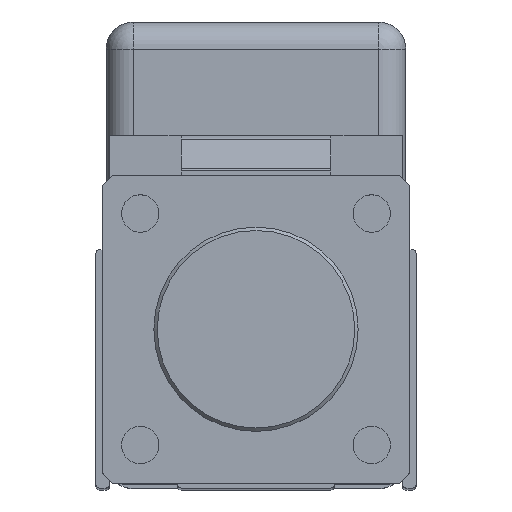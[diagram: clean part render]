
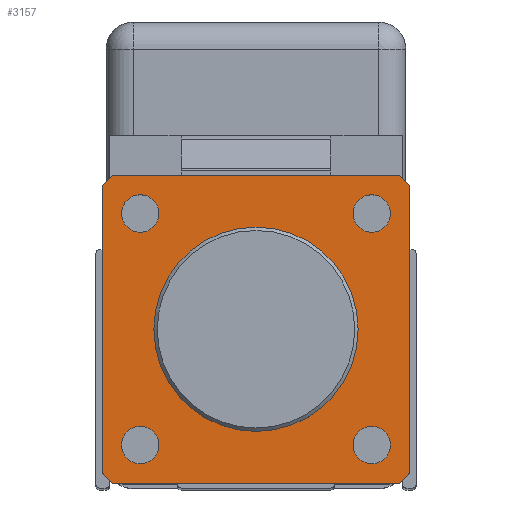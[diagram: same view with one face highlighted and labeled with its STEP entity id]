
A CAD part, top view. The second image highlights one B-rep face of the part: STEP entity #3157.
In plain terms, the highlighted planar face has unit normal (0, 0, 1).
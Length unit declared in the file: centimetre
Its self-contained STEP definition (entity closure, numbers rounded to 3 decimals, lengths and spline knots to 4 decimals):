
#409=VECTOR('',#3836,1.);
#412=VECTOR('',#3840,1.);
#414=VECTOR('',#3843,1.);
#417=VECTOR('',#3847,1.);
#420=VECTOR('',#3851,1.);
#423=VECTOR('',#3855,1.);
#427=VECTOR('',#3860,1.);
#430=VECTOR('',#3864,1.);
#652=LINE('',#4802,#409);
#655=LINE('',#4808,#412);
#657=LINE('',#4812,#414);
#660=LINE('',#4818,#417);
#663=LINE('',#4823,#420);
#666=LINE('',#4830,#423);
#670=LINE('',#4838,#427);
#673=LINE('',#4843,#430);
#855=PLANE('',#3388);
#990=VERTEX_POINT('',#4744);
#1017=VERTEX_POINT('',#4803);
#1018=VERTEX_POINT('',#4804);
#1019=VERTEX_POINT('',#4809);
#1020=VERTEX_POINT('',#4813);
#1022=VERTEX_POINT('',#4819);
#1023=VERTEX_POINT('',#4824);
#1026=VERTEX_POINT('',#4831);
#1029=VERTEX_POINT('',#4839);
#1030=VERTEX_POINT('',#4846);
#1032=VERTEX_POINT('',#4851);
#1033=VERTEX_POINT('',#4854);
#1034=VERTEX_POINT('',#4857);
#1230=CIRCLE('',#3356,1.5);
#1243=CIRCLE('',#3380,0.275);
#1245=CIRCLE('',#3383,0.275);
#1246=CIRCLE('',#3385,0.275);
#1247=CIRCLE('',#3387,0.275);
#1445=EDGE_CURVE('',#990,#990,#1230,.T.);
#1474=EDGE_CURVE('',#1017,#1018,#652,.T.);
#1477=EDGE_CURVE('',#1018,#1019,#655,.T.);
#1479=EDGE_CURVE('',#1019,#1020,#657,.T.);
#1482=EDGE_CURVE('',#1020,#1022,#660,.T.);
#1485=EDGE_CURVE('',#1022,#1023,#663,.T.);
#1489=EDGE_CURVE('',#1023,#1026,#666,.T.);
#1493=EDGE_CURVE('',#1026,#1029,#670,.T.);
#1496=EDGE_CURVE('',#1029,#1017,#673,.T.);
#1497=EDGE_CURVE('',#1030,#1030,#1243,.T.);
#1499=EDGE_CURVE('',#1032,#1032,#1245,.T.);
#1500=EDGE_CURVE('',#1033,#1033,#1246,.T.);
#1501=EDGE_CURVE('',#1034,#1034,#1247,.T.);
#2023=ORIENTED_EDGE('',*,*,#1445,.T.);
#2024=ORIENTED_EDGE('',*,*,#1501,.F.);
#2025=ORIENTED_EDGE('',*,*,#1500,.F.);
#2026=ORIENTED_EDGE('',*,*,#1499,.F.);
#2027=ORIENTED_EDGE('',*,*,#1497,.F.);
#2028=ORIENTED_EDGE('',*,*,#1474,.F.);
#2029=ORIENTED_EDGE('',*,*,#1496,.F.);
#2030=ORIENTED_EDGE('',*,*,#1493,.F.);
#2031=ORIENTED_EDGE('',*,*,#1489,.F.);
#2032=ORIENTED_EDGE('',*,*,#1485,.F.);
#2033=ORIENTED_EDGE('',*,*,#1482,.F.);
#2034=ORIENTED_EDGE('',*,*,#1479,.F.);
#2035=ORIENTED_EDGE('',*,*,#1477,.F.);
#2684=EDGE_LOOP('',(#2023));
#2685=EDGE_LOOP('',(#2024));
#2686=EDGE_LOOP('',(#2025));
#2687=EDGE_LOOP('',(#2026));
#2688=EDGE_LOOP('',(#2027));
#2689=EDGE_LOOP('',(#2028,#2029,#2030,#2031,#2032,#2033,#2034,#2035));
#2939=FACE_BOUND('',#2684,.T.);
#2940=FACE_BOUND('',#2685,.T.);
#2941=FACE_BOUND('',#2686,.T.);
#2942=FACE_BOUND('',#2687,.T.);
#2943=FACE_BOUND('',#2688,.T.);
#2944=FACE_BOUND('',#2689,.T.);
#3157=ADVANCED_FACE('',(#2939,#2940,#2941,#2942,#2943,#2944),#855,.T.);
#3356=AXIS2_PLACEMENT_3D('',#4743,#3791,#3792);
#3380=AXIS2_PLACEMENT_3D('',#4845,#3867,#3868);
#3383=AXIS2_PLACEMENT_3D('',#4850,#3873,#3874);
#3385=AXIS2_PLACEMENT_3D('',#4853,#3877,#3878);
#3387=AXIS2_PLACEMENT_3D('',#4856,#3881,#3882);
#3388=AXIS2_PLACEMENT_3D('',#4858,#3883,$);
#3791=DIRECTION('',(0.,0.,-1.));
#3792=DIRECTION('',(1.5,0.,0.));
#3836=DIRECTION('',(1.,0.,0.));
#3840=DIRECTION('',(0.707,-0.707,0.));
#3843=DIRECTION('',(0.,-1.,0.));
#3847=DIRECTION('',(-0.707,-0.707,0.));
#3851=DIRECTION('',(-1.,0.,0.));
#3855=DIRECTION('',(-0.707,0.707,0.));
#3860=DIRECTION('',(0.,1.,0.));
#3864=DIRECTION('',(0.707,0.707,0.));
#3867=DIRECTION('',(0.,0.,1.));
#3868=DIRECTION('',(0.275,0.,0.));
#3873=DIRECTION('',(0.,0.,1.));
#3874=DIRECTION('',(0.275,0.,0.));
#3877=DIRECTION('',(0.,0.,1.));
#3878=DIRECTION('',(0.275,0.,0.));
#3881=DIRECTION('',(0.,0.,1.));
#3882=DIRECTION('',(0.275,0.,0.));
#3883=DIRECTION('',(0.,0.,1.));
#4743=CARTESIAN_POINT('',(0.,0.,18.));
#4744=CARTESIAN_POINT('',(1.5,0.,18.));
#4802=CARTESIAN_POINT('',(2.11,2.26,18.));
#4803=CARTESIAN_POINT('',(-2.11,2.26,18.));
#4804=CARTESIAN_POINT('',(2.11,2.26,18.));
#4808=CARTESIAN_POINT('',(2.26,2.11,18.));
#4809=CARTESIAN_POINT('',(2.26,2.11,18.));
#4812=CARTESIAN_POINT('',(2.26,-2.11,18.));
#4813=CARTESIAN_POINT('',(2.26,-2.11,18.));
#4818=CARTESIAN_POINT('',(2.11,-2.26,18.));
#4819=CARTESIAN_POINT('',(2.11,-2.26,18.));
#4823=CARTESIAN_POINT('',(-2.11,-2.26,18.));
#4824=CARTESIAN_POINT('',(-2.11,-2.26,18.));
#4830=CARTESIAN_POINT('',(-2.26,-2.11,18.));
#4831=CARTESIAN_POINT('',(-2.26,-2.11,18.));
#4838=CARTESIAN_POINT('',(-2.26,2.11,18.));
#4839=CARTESIAN_POINT('',(-2.26,2.11,18.));
#4843=CARTESIAN_POINT('',(-2.11,2.26,18.));
#4845=CARTESIAN_POINT('',(-1.7,-1.7,18.));
#4846=CARTESIAN_POINT('',(-1.425,-1.7,18.));
#4850=CARTESIAN_POINT('',(-1.7,1.7,18.));
#4851=CARTESIAN_POINT('',(-1.425,1.7,18.));
#4853=CARTESIAN_POINT('',(1.7,1.7,18.));
#4854=CARTESIAN_POINT('',(1.975,1.7,18.));
#4856=CARTESIAN_POINT('',(1.7,-1.7,18.));
#4857=CARTESIAN_POINT('',(1.975,-1.7,18.));
#4858=CARTESIAN_POINT('',(0.,0.,18.));
